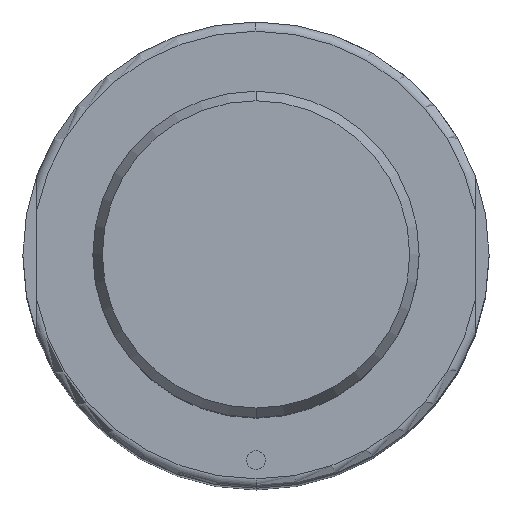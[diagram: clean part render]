
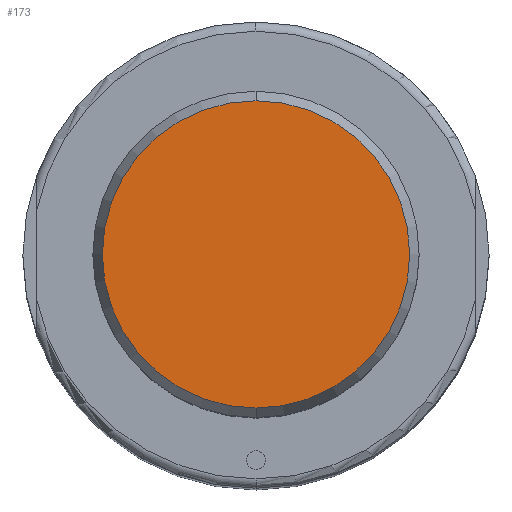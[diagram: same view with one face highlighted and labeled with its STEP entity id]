
A CAD part, top view. The second image highlights one B-rep face of the part: STEP entity #173.
In plain terms, the highlighted planar face has unit normal (0, 0, 1).
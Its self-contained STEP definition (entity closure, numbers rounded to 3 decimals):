
#124=PLANE('',#990);
#173=ADVANCED_FACE('',(#244),#124,.T.);
#244=FACE_OUTER_BOUND('',#297,.T.);
#297=EDGE_LOOP('',(#457,#458));
#364=CIRCLE('',#975,16.481);
#365=CIRCLE('',#977,16.481);
#457=ORIENTED_EDGE('',*,*,#758,.F.);
#458=ORIENTED_EDGE('',*,*,#759,.F.);
#677=VERTEX_POINT('',#1413);
#680=VERTEX_POINT('',#1418);
#758=EDGE_CURVE('',#680,#677,#364,.T.);
#759=EDGE_CURVE('',#677,#680,#365,.T.);
#975=AXIS2_PLACEMENT_3D('',#1419,#1109,#1110);
#977=AXIS2_PLACEMENT_3D('',#1421,#1113,#1114);
#990=AXIS2_PLACEMENT_3D('',#1444,#1143,#1144);
#1109=DIRECTION('',(0.,0.,-1.));
#1110=DIRECTION('',(-1.,0.,0.));
#1113=DIRECTION('',(0.,0.,-1.));
#1114=DIRECTION('',(1.,0.,0.));
#1143=DIRECTION('',(0.,0.,1.));
#1144=DIRECTION('',(0.,-1.,0.));
#1413=CARTESIAN_POINT('',(0.,-16.481,155.));
#1418=CARTESIAN_POINT('',(0.,16.481,155.));
#1419=CARTESIAN_POINT('',(0.,0.,155.));
#1421=CARTESIAN_POINT('',(0.,0.,155.));
#1444=CARTESIAN_POINT('',(0.,0.,155.));
